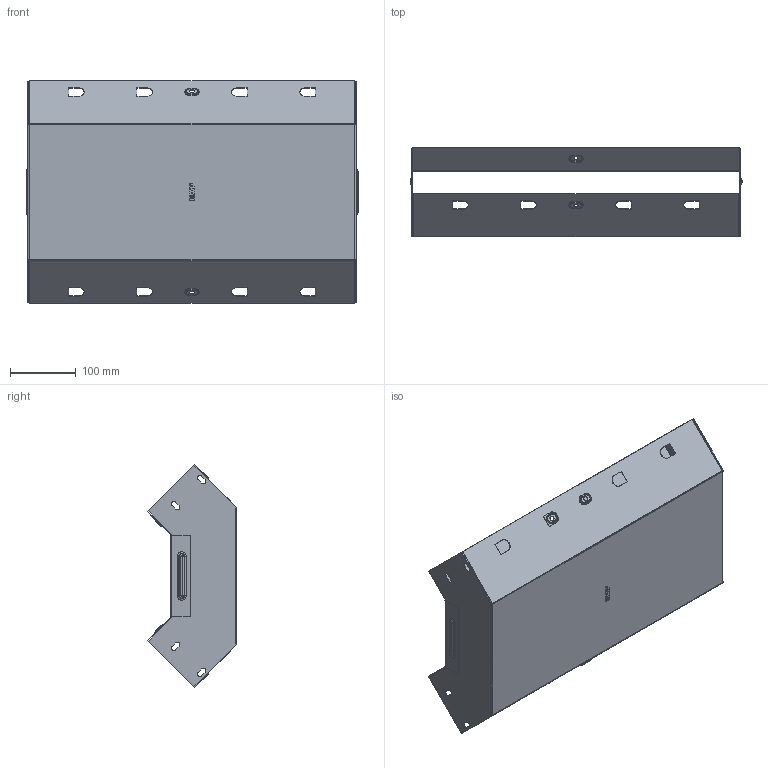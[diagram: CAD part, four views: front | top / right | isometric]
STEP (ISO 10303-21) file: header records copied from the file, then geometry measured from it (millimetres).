
FILE_DESCRIPTION (( 'STEP AP214' ), '1' );
FILE_NAME ('vi90100500_捘.STEP', '2019-06-10T09:20:28', ( '砐錪賧瘔蠈錪 Windows' ), ( '' ), 'SwSTEP 2.0', 'SolidWorks 2018', '' );
FILE_SCHEMA (( 'AUTOMOTIVE_DESIGN' ));
Length unit declared in the file: millimetre
Products named in the file (1): vi90100500_捘
Bounding box: 505.6 x 136.16 x 338.25 mm (x, y, z)
Volume: 297174.6 mm3; surface area: 747057.2 mm2
Topology: 2 solids, 2 shells, 468 faces, 1212 edges, 776 vertices
Faces by surface type: plane 254, cylinder 132, torus 64, bspline 18
Entity records: 15224 total; most frequent: CARTESIAN_POINT 3476, DIRECTION 2438, ORIENTED_EDGE 2424, EDGE_CURVE 1212, LINE 816, VECTOR 816, AXIS2_PLACEMENT_3D 811, VERTEX_POINT 776
